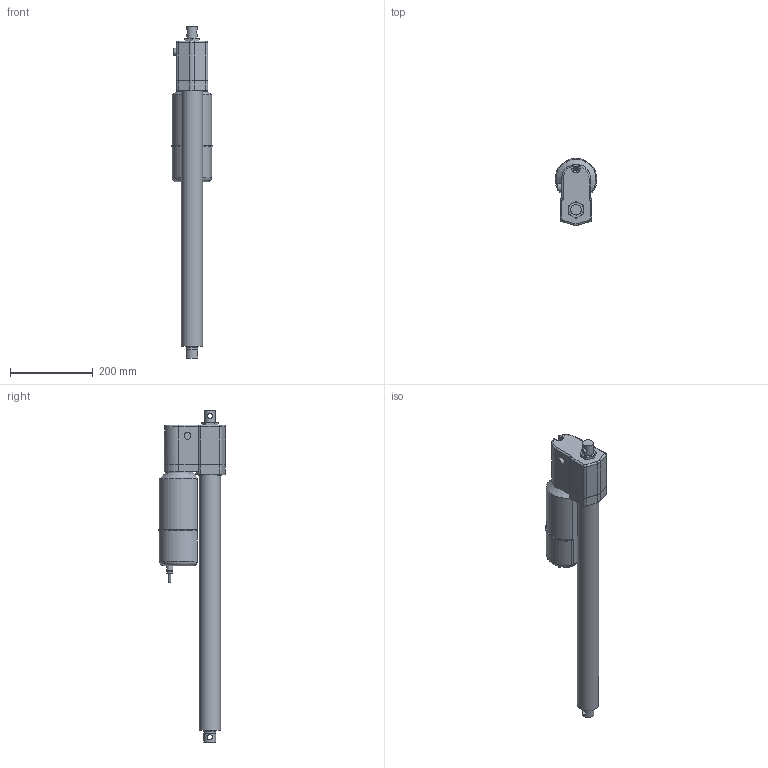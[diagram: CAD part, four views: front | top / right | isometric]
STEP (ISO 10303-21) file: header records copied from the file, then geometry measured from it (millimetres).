
FILE_DESCRIPTION (( 'STEP AP214' ), '1' );
FILE_NAME ('A22-05A5-20M0NPO-tollo.step', '2020-04-05T13:08:51', ( '' ), ( '' ), 'SwSTEP 2.0', 'SolidWorks 2010', '' );
FILE_SCHEMA (( 'AUTOMOTIVE_DESIGN' ));
Length unit declared in the file: millimetre
Products named in the file (7): Electrak-LA5-Motor-A22-05A5-20M0NPO-tollo_Electrak-LA5-Motor-A22-05A5-20M0NPO-tollo; Electrak-LA5-Rear-A22-05A5-20M0NPO-tollo_Electrak-LA5-Rear-A22-05A5-20M0NPO-tollo; Electrak-LA5-Tube-A22-05A5-20M0NPO-tollo_Electrak-LA5-Tube-A22-05A5-20M0NPO-tollo; Electrak-LA5-Rod-A22-05A5-20M0NPO-tollo_Electrak-LA5-Rod-A22-05A5-20M0NPO-tollo; Screw-MFX-H-M5-A22-05A5-20M0NPO-tollo_Screw-MFX-H-M5-A22-05A5-20M0NPO-tollo; Screw-M6S-M5-A22-05A5-20M0NPO-tollo_Screw-M6S-M5-A22-05A5-20M0NPO-tollo; A22-05A5-20M0NPO-tollo
Assembly tree (9 placements, depth 2):
  A22-05A5-20M0NPO-tollo
    Electrak-LA5-Tube-A22-05A5-20M0NPO-tollo_Electrak-LA5-Tube-A22-05A5-20M0NPO-tollo
    Electrak-LA5-Rod-A22-05A5-20M0NPO-tollo_Electrak-LA5-Rod-A22-05A5-20M0NPO-tollo
    Screw-MFX-H-M5-A22-05A5-20M0NPO-tollo_Screw-MFX-H-M5-A22-05A5-20M0NPO-tollo
    Screw-M6S-M5-A22-05A5-20M0NPO-tollo_Screw-M6S-M5-A22-05A5-20M0NPO-tollo  x4
    Electrak-LA5-Rear-A22-05A5-20M0NPO-tollo_Electrak-LA5-Rear-A22-05A5-20M0NPO-tollo
    Electrak-LA5-Motor-A22-05A5-20M0NPO-tollo_Electrak-LA5-Motor-A22-05A5-20M0NPO-tollo
Bounding box: 100.99 x 162.5 x 800.4 mm (x, y, z)
Volume: 3958186.2 mm3; surface area: 383483 mm2
Topology: 9 solids, 9 shells, 240 faces, 553 edges, 350 vertices
Faces by surface type: plane 96, cylinder 93, cone 31, torus 15, bspline 3, sphere 2
Full cylindrical faces by diameter (mm): 4 x1, 4.126 x5, 4.8 x2, 5 x13, 7.878 x4, 9.3 x1, 10 x1, 12.8 x2, 15 x2, 16.5 x1, 25.4 x1, 28.6 x4, 51.3 x1, 68 x1
Entity records: 5816 total; most frequent: CARTESIAN_POINT 1727, DIRECTION 814, ORIENTED_EDGE 670, AXIS2_PLACEMENT_3D 343, EDGE_CURVE 335, EDGE_LOOP 249, VERTEX_POINT 238, FACE_OUTER_BOUND 201
